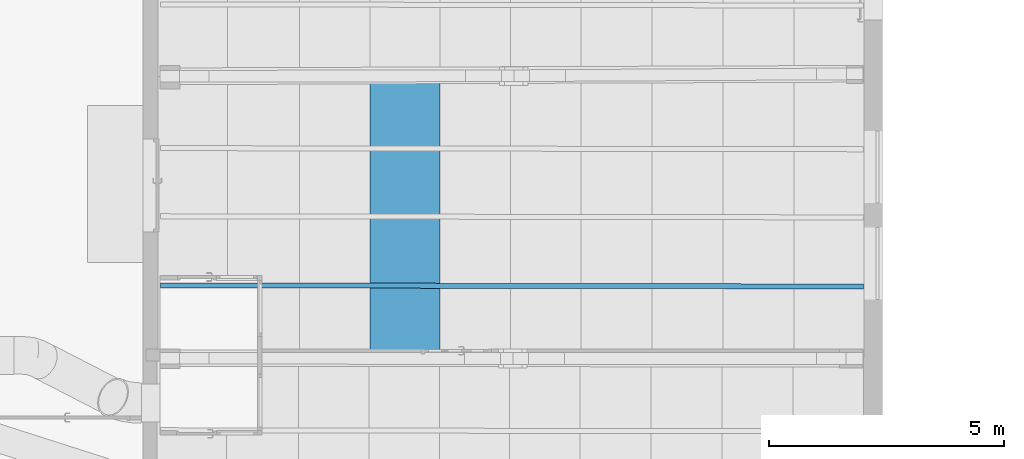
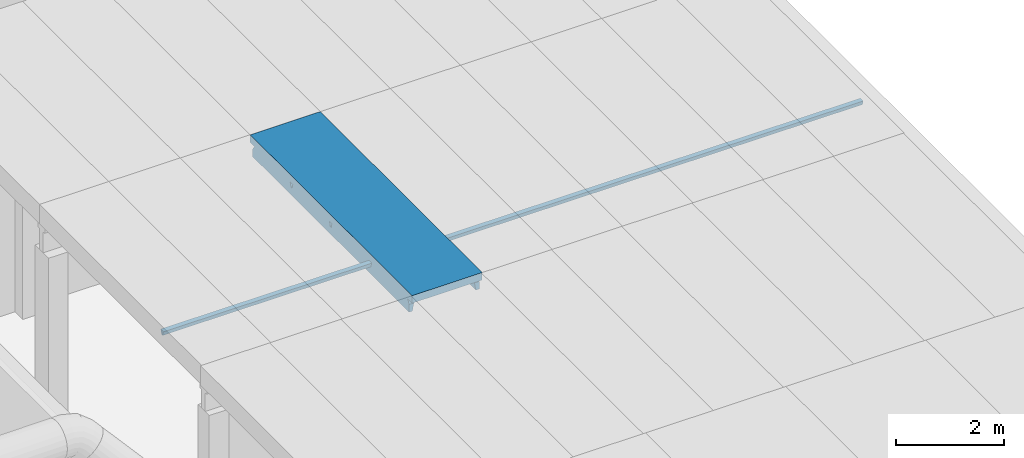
# One storey, part 49 of 301: 2 beams.
"""IFC2X3 building model written with IfcOpenShell, lengths in millimetres."""

import ifcopenshell
import ifcopenshell.guid

model = None  # the IFC model being written
_history = None  # IfcOwnerHistory: only IFC2X3 demands one
_inside = {}  # id of a spatial element -> (the spatial element, [elements in it])
_under = {}  # id of a project, library or spatial element -> (it, [spatial elements below it])
_declared = {}  # id of a project -> (the project, [libraries it declares])
_typed = {}  # id of a type object -> (the type object, [elements of that type])
_made_of = {}  # id of a material, layer set ... -> (it, [elements and type objects made of it])


def new_model(schema):
    """Start an empty IFC model of exactly this schema.

    Asked for "IFC4X3", IfcOpenShell would pick the latest addendum, in which some entities
    have other attributes; the version numbers below select the first issue.
    IFC2X3 requires an IfcOwnerHistory on every rooted entity: one is made here for all.
    """
    global model, _history
    if schema == "IFC4X3":
        model = ifcopenshell.file(schema_version=(4, 3, 0, 0))
    else:
        model = ifcopenshell.file(schema=schema)
    _inside.clear()
    _under.clear()
    _declared.clear()
    _typed.clear()
    _made_of.clear()
    _history = None
    if model.schema == "IFC2X3":
        org = make("IfcOrganization", Name="unknown")
        user = make(
            "IfcPersonAndOrganization",
            ThePerson=make("IfcPerson", FamilyName="unknown"),
            TheOrganization=org,
        )
        app = make(
            "IfcApplication",
            ApplicationDeveloper=org,
            Version="unknown",
            ApplicationFullName="unknown",
            ApplicationIdentifier="unknown",
        )
        _history = make(
            "IfcOwnerHistory",
            OwningUser=user,
            OwningApplication=app,
            ChangeAction="ADDED",
            CreationDate=0,
        )
    return model


def make(cls, **values):
    """One entity of the class cls with the attributes given. An attribute that is None is left unset."""
    return model.create_entity(
        cls, **{name: value for name, value in values.items() if value is not None}
    )


def entity(cls, *values):
    """Any entity or typed value of the class cls, its attributes in the order of the schema. None: left unset."""
    e = model.create_entity(cls)
    for i, value in enumerate(values):
        if value is not None:
            e[i] = value
    return e


def rooted(cls, **values):
    """An entity with a GlobalId (a new one), such as an element, a storey or a relation."""
    return make(cls, GlobalId=ifcopenshell.guid.new(), OwnerHistory=_history, **values)


def si_unit(unit_type, name, prefix=None):
    """IfcSIUnit, for example si_unit("LENGTHUNIT", "METRE", prefix="MILLI")."""
    return make("IfcSIUnit", UnitType=unit_type, Prefix=prefix, Name=name)


def converted_unit(unit_type, name, factor, base, dimensions=None, offset=None):
    """IfcConversionBasedUnit, such as the inch: factor (a typed value) times the base unit."""
    return make(
        "IfcConversionBasedUnit"
        if offset is None
        else "IfcConversionBasedUnitWithOffset",
        ConversionOffset=offset,
        Dimensions=None
        if dimensions is None
        else entity("IfcDimensionalExponents", *dimensions),
        UnitType=unit_type,
        Name=name,
        ConversionFactor=make(
            "IfcMeasureWithUnit", ValueComponent=factor, UnitComponent=base
        ),
    )


def derived_unit(unit_type, elements):
    """IfcDerivedUnit: a product of units, each with its exponent."""
    return make(
        "IfcDerivedUnit",
        Elements=[
            make("IfcDerivedUnitElement", Unit=unit, Exponent=power)
            for unit, power in elements
        ],
        UnitType=unit_type,
    )


def money_unit(currency):
    """IfcMonetaryUnit."""
    return make("IfcMonetaryUnit", Currency=currency)


def assignment(units):
    """IfcUnitAssignment: the units of a project."""
    return None if units is None else make("IfcUnitAssignment", Units=units)


def point(xyz):
    """IfcCartesianPoint."""
    return None if xyz is None else make("IfcCartesianPoint", Coordinates=xyz)


def direction(xyz):
    """IfcDirection."""
    return None if xyz is None else make("IfcDirection", DirectionRatios=xyz)


def frame(location, z_axis=None, x_axis=None):
    """IfcAxis2Placement3D, a coordinate frame: its origin and axes. An axis left out is left unset."""
    return make(
        "IfcAxis2Placement3D",
        Location=point(location),
        Axis=direction(z_axis),
        RefDirection=direction(x_axis),
    )


def origin_with_axes():
    """The frame at (0, 0, 0) with the z axis (0, 0, 1) and the x axis (1, 0, 0) written out."""
    return frame((0.0, 0.0, 0.0), z_axis=(0.0, 0.0, 1.0), x_axis=(1.0, 0.0, 0.0))


def place(relative_to, where):
    """IfcLocalPlacement: puts the frame where relative to a parent placement (None: the world)."""
    return make(
        "IfcLocalPlacement", PlacementRelTo=relative_to, RelativePlacement=where
    )


def context(
    kind, dimensions, precision=None, world=None, true_north=None, identifier=None
):
    """IfcGeometricRepresentationContext, for example the 3D "Model" context."""
    return make(
        "IfcGeometricRepresentationContext",
        ContextIdentifier=identifier,
        ContextType=kind,
        CoordinateSpaceDimension=dimensions,
        Precision=precision,
        WorldCoordinateSystem=world,
        TrueNorth=true_north,
    )


def subcontext(parent, identifier, kind, view, scale=None):
    """IfcGeometricRepresentationSubContext, for example "Body" below "Model"."""
    return make(
        "IfcGeometricRepresentationSubContext",
        ContextIdentifier=identifier,
        ContextType=kind,
        ParentContext=parent,
        TargetScale=scale,
        TargetView=view,
    )


def project(units=None, contexts=None):
    """IfcProject with its units and contexts."""
    return rooted(
        "IfcProject",
        Name="project",
        RepresentationContexts=contexts,
        UnitsInContext=assignment(units),
    )


def spatial(cls, under=None, at=None, **own):
    """A site, building, storey or space (cls), placed at a placement, below another one or the project."""
    s = rooted(cls, ObjectPlacement=at, **own)
    if under is not None:
        _under.setdefault(under.id(), (under, []))[1].append(s)
    return s


def faces_of(points, faces, orient=None, outer=None):
    """IfcFace entities. A face is a list of loops; a loop is a list of indices into points, from 0.

    orient and outer hold one flag for each loop. By default every Orientation is true, the
    first loop of a face is its IfcFaceOuterBound and the others are IfcFaceBound.
    """
    made = []
    for i, loops in enumerate(faces):
        bounds = []
        for j, loop in enumerate(loops):
            is_outer = j == 0 if outer is None else outer[i][j]
            bounds.append(
                make(
                    "IfcFaceOuterBound" if is_outer else "IfcFaceBound",
                    Bound=make("IfcPolyLoop", Polygon=[points[k] for k in loop]),
                    Orientation=True if orient is None else orient[i][j],
                )
            )
        made.append(make("IfcFace", Bounds=bounds))
    return made


def faceted_brep(points, faces, orient=None, outer=None, voids=None):
    """IfcFacetedBrep: a solid bounded by flat faces; with voids (closed shells), ...WithVoids."""
    shared = [point(p) for p in points]
    hull = make("IfcClosedShell", CfsFaces=faces_of(shared, faces, orient, outer))
    if voids is None:
        return make("IfcFacetedBrep", Outer=hull)
    return make(
        "IfcFacetedBrepWithVoids",
        Outer=hull,
        Voids=[
            make(cls, CfsFaces=faces_of(shared, fs, o, b)) for cls, fs, o, b in voids
        ],
    )


def shape(context_of_items, identifier, shape_type, items):
    """IfcShapeRepresentation: the items that make up one representation, for example the "Body"."""
    return make(
        "IfcShapeRepresentation",
        ContextOfItems=context_of_items,
        RepresentationIdentifier=identifier,
        RepresentationType=shape_type,
        Items=items,
    )


def material(Name=None, Category=None):
    """IfcMaterial."""
    return make("IfcMaterial", Name=Name, Category=Category)


def made_of(thing, what):
    """Note that an element or type object is made of a material, layer set ...; save() writes the relation."""
    if what is not None:
        _made_of.setdefault(what.id(), (what, []))[1].append(thing)
    return thing


def type_object(cls, material=None, **own):
    """A type object (cls), such as IfcWallType, which elements share."""
    return made_of(rooted(cls, **own), material)


def element(
    cls,
    number,
    at=None,
    inside=None,
    cuts=None,
    type_object=None,
    material=None,
    context=None,
    identifier="Body",
    shape_type=None,
    held_by="IfcProductDefinitionShape",
    body=None,
    shapes=None,
    **own,
):
    """One element of the class cls, such as IfcWall. Its Tag is "e" and its number.

    at: its placement. inside: the storey or other place that contains it. cuts: it is an
    opening in that element (IfcRelVoidsElement). A single representation is given by context,
    identifier, shape_type and body (its items); several are given by shapes. held_by: the class
    of the entity that holds the representations. save() writes the other relations.
    """
    e = rooted(cls, Tag="e%d" % number, ObjectPlacement=at, **own)
    if body is not None:
        shapes = [shape(context, identifier, shape_type, body)]
    if shapes is not None:
        e.Representation = make(held_by, Representations=shapes)
    if inside is not None:
        _inside.setdefault(inside.id(), (inside, []))[1].append(e)
    if cuts is not None:
        rooted(
            "IfcRelVoidsElement", RelatingBuildingElement=cuts, RelatedOpeningElement=e
        )
    if type_object is not None:
        _typed.setdefault(type_object.id(), (type_object, []))[1].append(e)
    return made_of(e, material)


def aggregate(whole, parts):
    """IfcRelAggregates: a whole, such as a stair, and the parts it consists of."""
    return rooted("IfcRelAggregates", RelatingObject=whole, RelatedObjects=parts)


def save(model, path):
    """Write the relations noted so far, then the file.

    IfcRelAggregates (storeys below a building ...), IfcRelContainedInSpatialStructure (elements
    in a storey), IfcRelDefinesByType, IfcRelAssociatesMaterial and IfcRelDeclares: one each for
    every whole, place, type object, material and project.
    """
    for whole, parts in _under.values():
        aggregate(whole, parts)
    for where, things in _inside.values():
        rooted(
            "IfcRelContainedInSpatialStructure",
            RelatedElements=things,
            RelatingStructure=where,
        )
    for kind, things in _typed.values():
        rooted("IfcRelDefinesByType", RelatedObjects=things, RelatingType=kind)
    for what, things in _made_of.values():
        rooted("IfcRelAssociatesMaterial", RelatedObjects=things, RelatingMaterial=what)
    for by, libraries in _declared.values():
        rooted("IfcRelDeclares", RelatingContext=by, RelatedDefinitions=libraries)
    model.write(path)


model = new_model("IFC2X3")

# Units and contexts
model_context = context("Model", 3, precision=0.01, world=origin_with_axes(), true_north=direction((0.0, 1.0)))
body_context = subcontext(model_context, "Body", "Model", "MODEL_VIEW")
ifc_project = project(units=[si_unit("LENGTHUNIT", "METRE", prefix="MILLI"), si_unit("AREAUNIT", "SQUARE_METRE"), si_unit("VOLUMEUNIT", "CUBIC_METRE"), converted_unit("PLANEANGLEUNIT", "DEGREE", entity("IfcPlaneAngleMeasure", 0.0174532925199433), si_unit("PLANEANGLEUNIT", "RADIAN"), dimensions=[0, 0, 0, 0, 0, 0, 0]), money_unit("EUR"), converted_unit("TIMEUNIT", "Year", entity("IfcTimeMeasure", 31557600.0), si_unit("TIMEUNIT", "SECOND"), dimensions=[0, 0, 1, 0, 0, 0, 0]), si_unit("MASSUNIT", "GRAM", prefix="KILO"), si_unit("THERMODYNAMICTEMPERATUREUNIT", "DEGREE_CELSIUS"), si_unit("LUMINOUSINTENSITYUNIT", "LUMEN"), si_unit("ENERGYUNIT", "JOULE", prefix="MEGA"), derived_unit("THERMALCONDUCTANCEUNIT", [(si_unit("POWERUNIT", "WATT"), 1), (si_unit("LENGTHUNIT", "METRE"), -1), (si_unit("THERMODYNAMICTEMPERATUREUNIT", "KELVIN"), -1)]), derived_unit("SPECIFICHEATCAPACITYUNIT", [(si_unit("ENERGYUNIT", "JOULE"), 1), (si_unit("MASSUNIT", "GRAM", prefix="KILO"), -1), (si_unit("THERMODYNAMICTEMPERATUREUNIT", "KELVIN"), -1)]), derived_unit("MASSDENSITYUNIT", [(si_unit("MASSUNIT", "GRAM", prefix="KILO"), 1), (si_unit("VOLUMEUNIT", "CUBIC_METRE"), -1)])], contexts=[model_context])

# Site, building, storey
site_placement = place(None, frame((0.0, 0.0, 8650.0), z_axis=(0.0, 0.0, 1.0), x_axis=(1.0, 0.0, 0.0)))
site = spatial("IfcSite", under=ifc_project, at=site_placement, Name="43301:001:0844", CompositionType="ELEMENT")
building_placement = place(site_placement, origin_with_axes())
building = spatial("IfcBuilding", under=site, at=building_placement, Name="Kuressaare Ametikooli tuulikute mehaanikute õppekorpus", CompositionType="ELEMENT")
storey_placement = place(building_placement, origin_with_axes())
storey = spatial("IfcBuildingStorey", under=building, at=storey_placement, Name="1.korrus", CompositionType="ELEMENT", Elevation=0.0)

# Beams
ifc_material = material(Name="GENEERILINE - KONSTRUKTRIOON")
beam_type_1 = type_object("IfcBeamType", Name="Precast Double Tee 2 1500 x 440", PredefinedType="NOTDEFINED")
beam_1_placement = place(storey_placement, frame((93475.87775377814, 56103.44756954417, 7100.0), z_axis=(0.0, 0.0, 1.0), x_axis=(-1.0, 0.0, 0.0)))
element("IfcBeam", 1, at=beam_1_placement, inside=storey, type_object=beam_type_1, material=ifc_material, context=body_context, shape_type="Brep", body=[
    faceted_brep([(-750.0, 165.320199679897, -169.8235046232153), (-750.0, 10.68878754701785, -169.8235046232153), (-750.0, 10.68878754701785, 0.0), (-750.0, 6016.794951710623, 0.0), (-750.0, 6016.794951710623, -169.8234995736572), (-750.0, 5837.784927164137, -169.8234995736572), (-750.0, 5848.747475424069, -181.3563575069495), (-750.0, 5880.419953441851, -222.3718083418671), (-750.0, 5906.011944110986, -267.4324680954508), (-750.0, 5906.012466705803, -440.0001340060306), (-750.0, 97.0922205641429, -440.0001340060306), (-750.0, 97.09274316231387, -267.4324731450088), (-750.0, 122.6848987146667, -222.3718133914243), (-750.0, 154.3575807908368, -181.3563625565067), (-750.0, 1506.924370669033, -184.1935020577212), (-750.0, 1527.665318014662, -271.7709778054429), (-750.0, 1567.665371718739, -271.7709778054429), (-750.0, 1588.405357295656, -184.1936973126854), (-750.0, 1592.979976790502, -175.3978342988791), (-750.0, 1601.178834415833, -169.8234995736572), (-750.0, 1494.150939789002, -169.8234995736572), (-750.0, 1502.349730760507, -175.3977593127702), (-750.0, 2978.777580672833, -271.7709778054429), (-750.0, 3018.77763437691, -271.7709778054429), (-750.0, 3039.517619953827, -184.1936973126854), (-750.0, 3044.092239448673, -175.3978342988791), (-750.0, 3052.291097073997, -169.8234995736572), (-750.0, 2945.263202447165, -169.8234995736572), (-750.0, 2953.461993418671, -175.3977593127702), (-750.0, 2958.036633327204, -184.1935020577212), (-750.0, 4489.637690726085, -271.7709778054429), (-750.0, 4510.377676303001, -184.1936973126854), (-750.0, 4514.952295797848, -175.3978342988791), (-750.0, 4523.151153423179, -169.8234995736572), (-750.0, 4416.12325879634, -169.8234995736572), (-750.0, 4424.322049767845, -175.3977593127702), (-750.0, 4428.896689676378, -184.1935020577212), (-750.0, 4449.637637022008, -271.7709778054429), (-584.2531439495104, 165.9169694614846, -169.8235046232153), (-584.2531439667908, 10.68878754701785, -169.8235046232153), (750.0, 10.68878754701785, -169.8235046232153), (750.0, 10.68878754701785, 0.0), (586.8200850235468, 10.68878754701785, -169.8235046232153), (750.0, 6016.794951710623, 0.0), (750.0, 6016.794951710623, -169.8234995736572), (586.8200850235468, 6016.794951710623, -169.8234995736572), (-584.2531439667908, 6016.794951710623, -169.8234995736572), (-584.2531439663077, 5837.738652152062, -169.8234995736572), (-604.310838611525, 5841.244453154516, -173.5057932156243), (-617.2693537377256, 5848.710418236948, -181.3563575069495), (-621.7526411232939, 5850.80904821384, -184.072435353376), (-634.3038197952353, 5863.224186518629, -200.1453415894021), (-640.3274701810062, 5878.270780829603, -219.6283094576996), (-640.7591226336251, 5880.389454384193, -222.3718083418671), (-647.8488081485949, 5905.983424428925, -267.4324680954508), (-674.9999969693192, 5905.991527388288, -440.0001340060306), (-674.9999969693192, 97.36225727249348, -440.0001340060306), (-647.848808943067, 97.4605374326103, -267.4324731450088), (-640.7591234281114, 123.0782193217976, -222.3718133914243), (-640.3274701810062, 125.1983440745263, -219.6283094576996), (-634.3038197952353, 140.2650416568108, -200.1453415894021), (-621.7526411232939, 152.7219461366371, -184.072435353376), (-617.2693620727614, 154.8354760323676, -181.3563625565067), (-604.310838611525, 162.3445331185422, -173.5057932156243), (-621.847180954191, 1506.714371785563, -184.1935020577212), (-634.3038197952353, 1510.512653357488, -200.1453415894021), (-640.3274701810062, 1515.136669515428, -219.6283094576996), (-648.5314139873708, 1527.499045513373, -271.7709778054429), (-648.5314139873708, 1567.499099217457, -271.7709778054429), (-640.3274701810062, 1579.834043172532, -219.6283094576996), (-634.3038197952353, 1584.438114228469, -200.1453415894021), (-621.8473334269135, 1588.195358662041, -184.1936973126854), (-621.7526411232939, 1588.258270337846, -184.072435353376), (-607.4339316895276, 1592.746359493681, -175.3978342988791), (-604.310838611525, 1595.524098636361, -173.5057932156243), (-584.2531439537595, 1600.907231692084, -169.8234995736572), (-584.2531439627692, 1493.879337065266, -169.8234995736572), (-604.310838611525, 1499.328234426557, -173.5057932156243), (-607.4338079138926, 1502.116113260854, -175.3977593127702), (-621.7526411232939, 1506.651250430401, -184.072435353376), (-648.5314139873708, 2978.611308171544, -271.7709778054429), (-648.5314139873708, 3018.611361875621, -271.7709778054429), (-640.3274701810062, 3030.946305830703, -219.6283094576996), (-634.3038197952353, 3035.55037688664, -200.1453415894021), (-621.8473334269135, 3039.307621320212, -184.1936973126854), (-621.7526411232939, 3039.370532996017, -184.072435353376), (-607.4339316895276, 3043.858622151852, -175.3978342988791), (-604.310838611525, 3046.636361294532, -173.5057932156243), (-584.2531439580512, 3052.019494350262, -169.8234995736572), (-584.2531439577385, 2944.99159972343, -169.8234995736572), (-604.310838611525, 2950.440497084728, -173.5057932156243), (-607.4338079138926, 2953.228375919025, -175.3977593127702), (-621.7526411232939, 2957.763513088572, -184.072435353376), (-621.8471809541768, 2957.826634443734, -184.1935020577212), (-634.3038197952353, 2961.624916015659, -200.1453415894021), (-640.3274701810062, 2966.248932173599, -219.6283094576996), (-634.3038197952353, 4506.410433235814, -200.1453415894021), (-621.8473334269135, 4510.167677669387, -184.1936973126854), (-648.5314139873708, 4489.471418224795, -271.7709778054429), (-640.3274701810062, 4501.80636217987, -219.6283094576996), (-621.7526411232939, 4510.230589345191, -184.072435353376), (-607.4339316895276, 4514.718678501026, -175.3978342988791), (-604.310838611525, 4517.496417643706, -173.5057932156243), (-584.2531439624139, 4522.879550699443, -169.8234995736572), (-584.253143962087, 4415.851656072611, -169.8234995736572), (-604.310838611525, 4421.300553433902, -173.5057932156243), (-607.4338079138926, 4424.0884322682, -175.3977593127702), (-621.7526411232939, 4428.623569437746, -184.072435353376), (-621.8471809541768, 4428.686690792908, -184.1935020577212), (-640.3274701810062, 4437.108988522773, -219.6283094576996), (-648.5314139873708, 4449.471364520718, -271.7709778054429), (-634.3038197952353, 4432.484972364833, -200.1453415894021), (586.8200850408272, 170.1334060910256, -169.8235046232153), (586.8200850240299, 5837.411699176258, -169.8234995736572), (586.8200850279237, 4520.960559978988, -169.8234995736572), (586.8200850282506, 4413.932665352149, -169.8234995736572), (586.8200850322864, 3050.100503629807, -169.8234995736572), (586.8200850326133, 2943.072609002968, -169.8234995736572), (586.8200850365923, 1598.988240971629, -169.8234995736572), (586.8200850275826, 1491.960346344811, -169.8234995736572), (750.0, 170.7209336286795, -169.8235046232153), (750.0, 159.7583147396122, -181.3563625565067), (750.0, 128.0856326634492, -222.3718133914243), (750.0, 102.4934771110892, -267.4324731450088), (750.0, 102.4929545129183, -440.0001340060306), (750.0, 5905.593680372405, -440.0001340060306), (750.0, 5905.593157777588, -267.4324680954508), (750.0, 5880.001167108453, -222.3718083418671), (750.0, 5848.328689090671, -181.3563575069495), (750.0, 5837.366140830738, -169.8234995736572), (750.0, 1590.521986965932, -175.3978342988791), (750.0, 1585.947367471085, -184.1936973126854), (750.0, 1565.207381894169, -271.7709778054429), (750.0, 1525.207328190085, -271.7709778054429), (750.0, 1504.466380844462, -184.1935020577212), (750.0, 1499.891740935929, -175.3977593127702), (750.0, 1491.692949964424, -169.8234995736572), (750.0, 1598.720844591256, -169.8234995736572), (750.0, 3037.059630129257, -184.1936973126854), (750.0, 3016.31964455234, -271.7709778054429), (750.0, 2976.319590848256, -271.7709778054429), (750.0, 2955.578643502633, -184.1935020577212), (750.0, 2951.0040035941, -175.3977593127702), (750.0, 2942.805212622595, -169.8234995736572), (750.0, 3049.833107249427, -169.8234995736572), (750.0, 3041.634249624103, -175.3978342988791), (750.0, 4487.179700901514, -271.7709778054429), (750.0, 4447.17964719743, -271.7709778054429), (750.0, 4426.438699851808, -184.1935020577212), (750.0, 4421.864059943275, -175.3977593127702), (750.0, 4413.665268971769, -169.8234995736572), (750.0, 4520.693163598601, -169.8234995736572), (750.0, 4512.494305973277, -175.3978342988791), (750.0, 4507.919686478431, -184.1936973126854), (604.4404036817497, 5839.450430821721, -171.9734684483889), (604.4404036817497, 4517.769463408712, -171.9734684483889), (604.4404036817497, 3046.909407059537, -171.9734684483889), (604.4404036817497, 4417.066031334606, -171.9734684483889), (604.4404036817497, 2946.205974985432, -171.9734684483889), (604.4404036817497, 1595.797144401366, -171.9734684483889), (604.4404036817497, 1495.093712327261, -171.9734684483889), (604.4404036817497, 168.1531884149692, -171.9734684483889), (620.1516209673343, 160.3565562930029, -180.2351660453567), (621.1429310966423, 159.2943662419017, -181.3563625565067), (631.9095256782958, 149.9296663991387, -193.5336498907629), (638.1842783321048, 137.1296673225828, -210.1386333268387), (640.409702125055, 127.691053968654, -222.3718133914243), (648.6070035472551, 102.1284127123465, -267.4324731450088), (680.0000000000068, 102.240920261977, -440.0001340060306), (680.0000000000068, 5905.613223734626, -440.0001340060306), (648.6070026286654, 5905.621465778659, -267.4324680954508), (640.4097012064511, 5880.031763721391, -222.3718083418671), (621.1429266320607, 5848.364664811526, -181.3563575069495), (638.1842783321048, 5870.585823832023, -210.1386333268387), (631.9095256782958, 5857.765067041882, -193.5336498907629), (620.1516209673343, 5847.299193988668, -180.2351660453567), (620.1516209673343, 1588.218927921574, -180.2351660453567), (623.651571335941, 1586.154409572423, -184.1936973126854), (610.952498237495, 1590.749838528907, -175.3978342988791), (638.1842783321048, 1579.986335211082, -210.1386333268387), (649.3962514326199, 1565.372237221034, -271.7709778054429), (631.9095256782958, 1583.928997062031, -193.5336498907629), (649.3962514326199, 1525.37218351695, -271.7709778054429), (638.1842783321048, 1510.794186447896, -210.1386333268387), (631.9095256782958, 1506.871915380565, -193.5336498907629), (623.651398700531, 1504.673423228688, -184.1935020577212), (610.9523556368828, 1500.119592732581, -175.3977593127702), (620.1516209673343, 1502.620439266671, -180.2351660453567), (649.3962514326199, 3016.484499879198, -271.7709778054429), (623.651571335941, 3037.266672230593, -184.1936973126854), (631.9095256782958, 3035.041259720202, -193.5336498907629), (638.1842783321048, 3031.098597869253, -210.1386333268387), (649.3962514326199, 2976.484446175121, -271.7709778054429), (638.1842783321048, 2961.906449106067, -210.1386333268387), (631.9095256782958, 2957.984178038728, -193.5336498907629), (623.651398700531, 2955.785685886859, -184.1935020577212), (620.1516209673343, 2953.732701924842, -180.2351660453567), (610.952355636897, 2951.231855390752, -175.3977593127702), (610.952498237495, 3041.862101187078, -175.3978342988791), (620.1516209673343, 3039.331190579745, -180.2351660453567), (649.3962514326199, 4487.344556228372, -271.7709778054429), (649.3962514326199, 4447.344502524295, -271.7709778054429), (638.1842783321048, 4432.766505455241, -210.1386333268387), (631.9095256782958, 4428.844234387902, -193.5336498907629), (623.651398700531, 4426.645742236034, -184.1935020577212), (620.1516209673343, 4424.592758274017, -180.2351660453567), (610.952355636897, 4422.091911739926, -175.3977593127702), (610.952498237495, 4512.722157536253, -175.3978342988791), (620.1516209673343, 4510.191246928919, -180.2351660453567), (623.651571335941, 4508.126728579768, -184.1936973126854), (631.9095256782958, 4505.901316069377, -193.5336498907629), (638.1842783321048, 4501.958654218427, -210.1386333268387)], [[[0, 1, 2, 3, 4, 5, 6, 7, 8, 9, 10, 11, 12, 13], [14, 15, 16, 17, 18, 19, 20, 21], [22, 23, 24, 25, 26, 27, 28, 29], [30, 31, 32, 33, 34, 35, 36, 37]], [[38, 39, 1, 0]], [[40, 41, 2, 1, 39, 42]], [[3, 2, 41, 43]], [[4, 3, 43, 44, 45, 46]], [[47, 5, 4, 46]], [[6, 5, 47, 48, 49]], [[49, 50, 51, 52, 53, 7, 6]], [[54, 8, 7, 53]], [[55, 9, 8, 54]], [[10, 9, 55, 56]], [[56, 57, 11, 10]], [[57, 58, 12, 11]], [[12, 58, 59, 60, 61, 62, 13]], [[38, 0, 13, 62, 63]], [[64, 65, 66, 67, 15, 14]], [[16, 15, 67, 68]], [[68, 69, 70, 71, 17, 16]], [[17, 71, 72, 73, 18]], [[18, 73, 74, 75, 19]], [[20, 19, 75, 76]], [[20, 76, 77, 78, 21]], [[21, 78, 79, 64, 14]], [[22, 80, 81, 23]], [[82, 83, 84, 24, 23, 81]], [[84, 85, 86, 25, 24]], [[86, 87, 88, 26, 25]], [[26, 88, 89, 27]], [[89, 90, 91, 28, 27]], [[91, 92, 93, 29, 28]], [[94, 95, 80, 22, 29, 93]], [[96, 97, 31, 30, 98, 99]], [[100, 101, 32, 31, 97]], [[102, 103, 33, 32, 101]], [[103, 104, 34, 33]], [[105, 106, 35, 34, 104]], [[107, 108, 36, 35, 106]], [[109, 110, 37, 36, 108, 111]], [[110, 98, 30, 37]], [[112, 42, 39, 38, 76, 75, 89, 88, 104, 103, 47, 46, 45, 113, 114, 115, 116, 117, 118, 119]], [[43, 41, 40, 120, 121, 122, 123, 124, 125, 126, 127, 128, 129, 44], [130, 131, 132, 133, 134, 135, 136, 137], [138, 139, 140, 141, 142, 143, 144, 145], [146, 147, 148, 149, 150, 151, 152, 153]], [[120, 40, 42, 112]], [[129, 113, 45, 44]], [[48, 47, 103, 102]], [[48, 102, 101, 100, 50, 49]], [[50, 100, 97, 96, 51]], [[52, 51, 96, 99]], [[53, 52, 99, 98, 110, 109, 82, 81, 80, 95, 69, 68, 67, 66, 59, 58, 57, 56, 55, 54]], [[66, 65, 60, 59]], [[79, 61, 60, 65, 64]], [[63, 62, 61, 79, 78, 77]], [[77, 76, 38, 63]], [[94, 70, 69, 95]], [[71, 70, 94, 93, 92, 72]], [[73, 72, 92, 91, 90, 74]], [[89, 75, 74, 90]], [[83, 82, 109, 111]], [[83, 111, 108, 107, 85, 84]], [[85, 107, 106, 105, 87, 86]], [[88, 87, 105, 104]], [[113, 154, 155, 114]], [[151, 150, 115, 114]], [[156, 116, 115, 157]], [[116, 144, 143, 117]], [[158, 159, 118, 117]], [[119, 118, 137, 136]], [[119, 160, 161, 112]], [[112, 161, 162, 163, 121, 120]], [[163, 164, 165, 166, 122, 121]], [[123, 122, 166, 167]], [[124, 123, 167, 168]], [[168, 169, 125, 124]], [[125, 169, 170, 126]], [[126, 170, 171, 127]], [[172, 128, 127, 171, 173, 174]], [[113, 129, 128, 172, 175, 154]], [[176, 177, 131, 130, 178]], [[179, 180, 132, 131, 177, 181]], [[180, 182, 133, 132]], [[134, 133, 182, 183, 184, 185]], [[186, 135, 134, 185, 187]], [[119, 136, 135, 186, 160]], [[159, 178, 130, 137, 118]], [[188, 139, 138, 189, 190, 191]], [[192, 140, 139, 188]], [[140, 192, 193, 194, 195, 141]], [[142, 141, 195, 196, 197]], [[143, 142, 197, 158, 117]], [[198, 145, 144, 116, 156]], [[189, 138, 145, 198, 199]], [[147, 146, 200, 201]], [[201, 202, 203, 204, 148, 147]], [[148, 204, 205, 206, 149]], [[149, 206, 157, 115, 150]], [[152, 151, 114, 155, 207]], [[153, 152, 207, 208, 209]], [[146, 153, 209, 210, 211, 200]], [[175, 208, 207, 155, 154]], [[156, 157, 206, 205, 199, 198]], [[178, 159, 158, 197, 196, 176]], [[187, 162, 161, 160, 186]], [[164, 163, 162, 187, 185, 184]], [[184, 183, 165, 164]], [[202, 201, 200, 211, 173, 171, 170, 169, 168, 167, 166, 165, 183, 182, 180, 179, 193, 192, 188, 191]], [[174, 173, 211, 210]], [[174, 210, 209, 208, 175, 172]], [[177, 176, 196, 195, 194, 181]], [[193, 179, 181, 194]], [[199, 205, 204, 203, 190, 189]], [[191, 190, 203, 202]]]),
])
beam_type_2 = type_object("IfcBeamType", Name="Precast Single Tee 2 107 x 102", PredefinedType="NOTDEFINED")
beam_2_placement = place(storey_placement, frame((88270.22240509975, 51643.56965693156, 6930.176500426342), z_axis=(0.0, 0.0, 1.0), x_axis=(-0.001638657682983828, -0.9999986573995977, 0.0)))
element("IfcBeam", 2, at=beam_2_placement, inside=storey, type_object=beam_type_2, material=ifc_material, context=body_context, shape_type="Brep", body=[
    faceted_brep([(45.31502884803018, 0.0, -5.574334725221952), (45.31502884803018, 14968.77585727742, -5.574334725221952), (53.51387546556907, 14968.77585727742, 0.0), (53.51387546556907, 0.0, 0.0), (40.74041549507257, 0.0, -14.37019773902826), (40.74041549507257, 14968.77585727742, -14.37019773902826), (20.00045776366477, 14968.77585727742, -101.9474782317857), (-19.99954223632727, 14968.77585727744, -101.9474782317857), (-40.74046173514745, 14968.77585727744, -14.37000248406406), (-45.31509550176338, 14968.77585727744, -5.574259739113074), (-53.51387546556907, 14968.77585727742, 0.0), (-53.51387546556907, 0.0, 0.0), (-45.31509550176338, 0.0, -5.574259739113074), (-40.74046173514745, 0.0, -14.37000248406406), (-19.99954223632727, 0.0, -101.9474782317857), (20.00045776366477, 0.0, -101.9474782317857)], [[[0, 1, 2, 3]], [[4, 5, 1, 0]], [[2, 1, 5, 6, 7, 8, 9, 10]], [[3, 2, 10, 11]], [[4, 0, 3, 11, 12, 13, 14, 15]], [[15, 6, 5, 4]], [[14, 7, 6, 15]], [[13, 8, 7, 14]], [[12, 9, 8, 13]], [[11, 10, 9, 12]]]),
])

save(model, "model.ifc")
